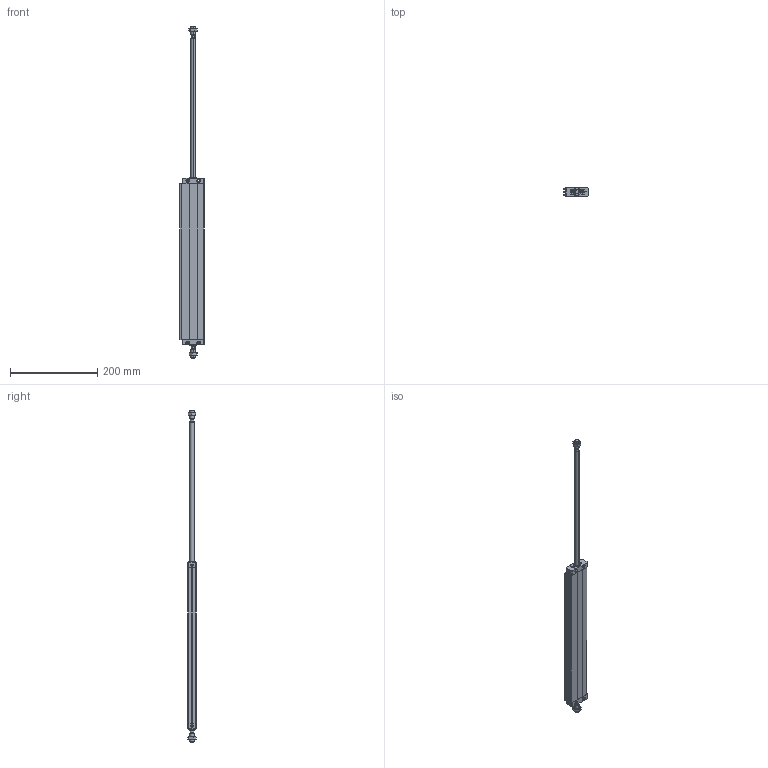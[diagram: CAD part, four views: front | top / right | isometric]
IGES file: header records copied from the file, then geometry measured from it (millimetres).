
Global section: file name: No Iges File Name specified; native system: Autodesk Inventor 2011; preprocessor: AutoDesk Inventor Iges Exporter R2011; author: airolcr1; date: 20101213.152925; units: millimetre
Bounding box: 56.25 x 20 x 762 mm (x, y, z)
Volume: 267130.9 mm3; surface area: 136596.4 mm2
Topology: 6 solids, 6 shells, 282 faces, 664 edges, 392 vertices
Faces by surface type: bspline 117, plane 97, cone 36, cylinder 18, revolution 14
